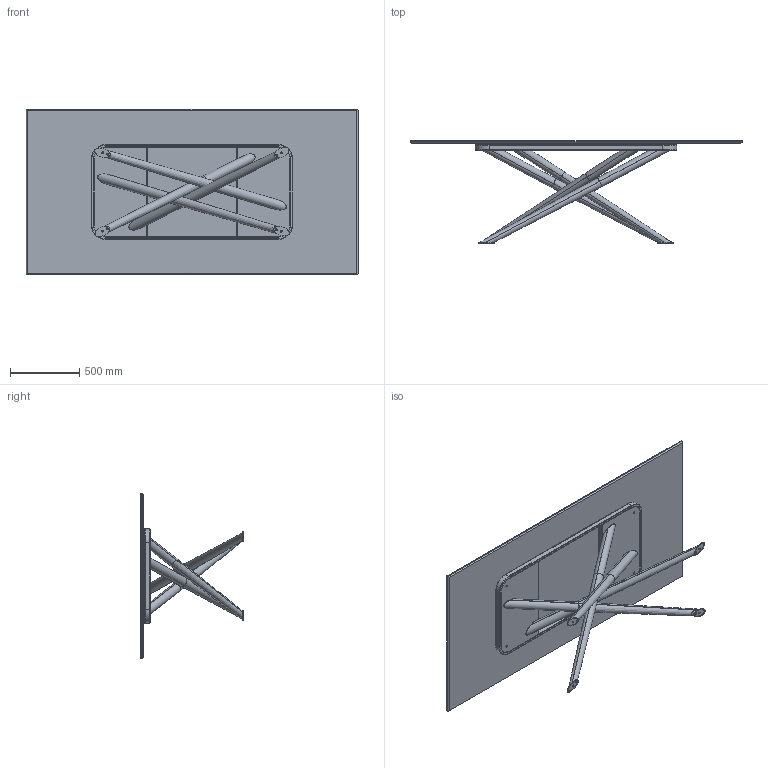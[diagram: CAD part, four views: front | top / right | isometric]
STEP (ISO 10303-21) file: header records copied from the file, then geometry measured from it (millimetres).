
FILE_DESCRIPTION (( 'STEP AP203' ), '1' );
FILE_NAME ('BA22C.STEP', '2024-08-08T06:22:46', ( '' ), ( '' ), 'SwSTEP 2.0', 'SolidWorks 2022', '' );
FILE_SCHEMA (( 'CONFIG_CONTROL_DESIGN' ));
Length unit declared in the file: millimetre
Products named in the file (8): BAB100000_01-00-Gambe saldate BALY 240_Default<A macchina>; TR Fastenings Ltd-M6_M6; K2XCMXX-00-Piani Rettangolari in ceramica_2390 x 1190; BAB100000_03-00-Telaio BALY L240_Default<A macchina>; BAB100000_02-00-piede per baly 240; BAB100000-00-BALY BASE GREZZA L240 rettangolare; BA22C; M6xXXmm_HEX_M6x30mm HEX
Assembly tree (18 placements, depth 3):
  BA22C
    K2XCMXX-00-Piani Rettangolari in ceramica_2390 x 1190
    BAB100000-00-BALY BASE GREZZA L240 rettangolare
      BAB100000_01-00-Gambe saldate BALY 240_Default<A macchina>
      BAB100000_03-00-Telaio BALY L240_Default<A macchina>
      BAB100000_02-00-piede per baly 240  x4
      TR Fastenings Ltd-M6_M6  x2
      M6xXXmm_HEX_M6x30mm HEX  x8
Bounding box: 2390 x 735 x 1190 mm (x, y, z)
Volume: 51078068 mm3; surface area: 15685825 mm2
Topology: 28 solids, 28 shells, 626 faces, 1296 edges, 720 vertices
Faces by surface type: plane 300, cylinder 172, cone 88, torus 48, bspline 18
Entity records: 10196 total; most frequent: CARTESIAN_POINT 1787, DIRECTION 1620, ORIENTED_EDGE 1428, EDGE_CURVE 714, AXIS2_PLACEMENT_3D 620, VERTEX_POINT 411, LINE 380, VECTOR 380
